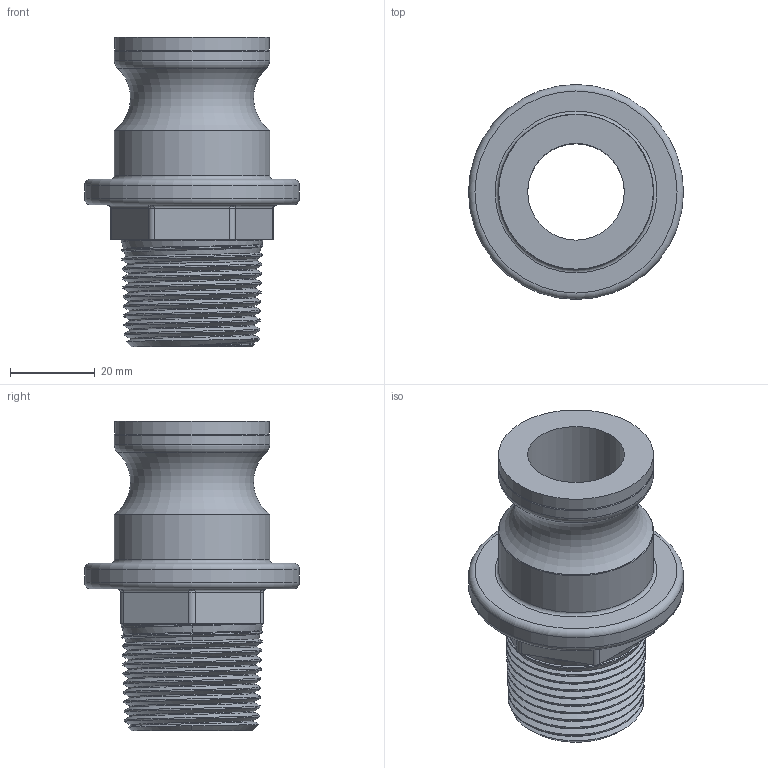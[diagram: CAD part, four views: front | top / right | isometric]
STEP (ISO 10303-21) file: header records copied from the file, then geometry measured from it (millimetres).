
FILE_DESCRIPTION(/* description */ ('Alibre Inc.'),/* implementation_level */ '2;1');
FILE_NAME(/* name */ 'export0',/* time_stamp */ '2016-03-10T17:54:43-05:00',/* author */ (''),/* organization */ (''),/* preprocessor_version */ 'ST-DEVELOPER v14',/* originating_system */ 'Alibre',/* authorisation */ '');
FILE_SCHEMA (('CONFIG_CONTROL_DESIGN'));
Length unit declared in the file: centimetre
Products named in the file (1): ID_1
Bounding box: 50.8 x 50.8 x 73.15 mm (x, y, z)
Volume: 41065.7 mm3; surface area: 17726.7 mm2
Topology: 1 solids, 1 shells, 79 faces, 197 edges, 117 vertices
Faces by surface type: cone 35, cylinder 19, plane 11, bspline 9, torus 5
Full cylindrical faces by diameter (mm): 22.86 x1, 36.576 x1, 36.728 x2, 50.8 x1
Entity records: 24842 total; most frequent: CARTESIAN_POINT 23104, ORIENTED_EDGE 356, DIRECTION 285, EDGE_CURVE 178, AXIS2_PLACEMENT_3D 119, VERTEX_POINT 116, EDGE_LOOP 96, FACE_BOUND 96
